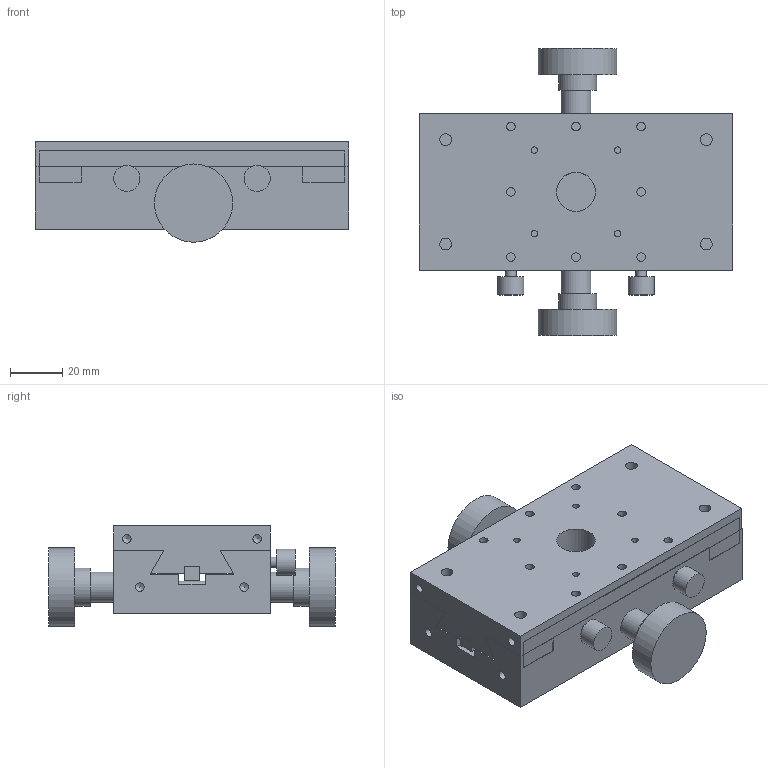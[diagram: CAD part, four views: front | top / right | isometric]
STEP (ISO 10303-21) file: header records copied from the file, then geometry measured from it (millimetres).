
FILE_DESCRIPTION( ( 'STEP AP214' ), '1' );
FILE_NAME( 'C:/Project/B06-1NM.stp', '2007-05-08T10:31:19', ( ' ' ), ( ' ' ), 'XStep 1.0', ' ', ' ' );
FILE_SCHEMA( ( 'automotive_design' ) );
Length unit declared in the file: millimetre
Products named in the file (3): 1; 2; 3
Bounding box: 120 x 110 x 38.5 mm (x, y, z)
Volume: 249141.1 mm3; surface area: 64234.9 mm2
Topology: 3 solids, 3 shells, 133 faces, 359 edges, 249 vertices
Faces by surface type: plane 77, cylinder 48, cone 8
Full cylindrical faces by diameter (mm): 2.5 x4, 3.3 x16, 4 x2, 4.5 x7, 7 x3, 8 x6, 10 x2, 11.5 x2, 14.6 x2, 15 x1, 30 x2
Entity records: 4860 total; most frequent: CARTESIAN_POINT 742, DIRECTION 620, ORIENTED_EDGE 508, EDGE_CURVE 254, EDGE_LOOP 250, AXIS2_PLACEMENT_3D 238, VERTEX_POINT 208, FACE_OUTER_BOUND 180
